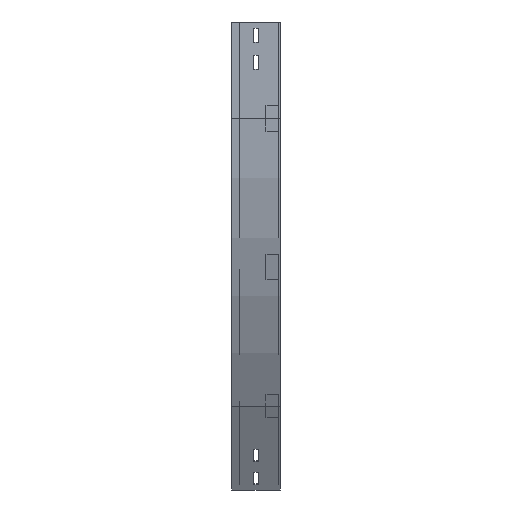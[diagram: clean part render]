
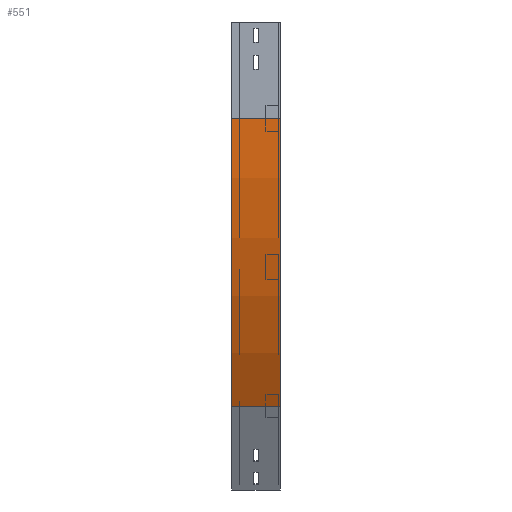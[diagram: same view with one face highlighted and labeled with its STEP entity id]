
A CAD part, left-side view. The second image highlights one B-rep face of the part: STEP entity #551.
In plain terms, the highlighted cylindrical face has radius 900 mm (diameter 1800 mm), a partial arc.
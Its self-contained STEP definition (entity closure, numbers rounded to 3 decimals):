
#178 = DIRECTION ( 'NONE',  ( 0., -1., 0. ) ) ;
#202 = ORIENTED_EDGE ( 'NONE', *, *, #2543, .T. ) ;
#342 = DIRECTION ( 'NONE',  ( 0., -1., 0. ) ) ;
#371 = DIRECTION ( 'NONE',  ( 0., -1., 0. ) ) ;
#429 = CARTESIAN_POINT ( 'NONE',  ( 900., 0., -150. ) ) ;
#498 = CARTESIAN_POINT ( 'NONE',  ( 0., 0., -150. ) ) ;
#551 = ADVANCED_FACE ( 'NONE', ( #703 ), #1306, .T. ) ;
#597 = EDGE_CURVE ( 'NONE', #1271, #2856, #3410, .T. ) ;
#703 = FACE_OUTER_BOUND ( 'NONE', #3224, .T. ) ;
#745 = CARTESIAN_POINT ( 'NONE',  ( 0., 0., -150. ) ) ;
#789 = AXIS2_PLACEMENT_3D ( 'NONE', #429, #178, #2848 ) ;
#843 = AXIS2_PLACEMENT_3D ( 'NONE', #2138, #342, #3302 ) ;
#860 = EDGE_CURVE ( 'NONE', #2917, #2931, #972, .T. ) ;
#919 = DIRECTION ( 'NONE',  ( 0., -1., 0. ) ) ;
#947 = CARTESIAN_POINT ( 'NONE',  ( 0., 75., -150. ) ) ;
#972 = LINE ( 'NONE', #3579, #2355 ) ;
#1271 = VERTEX_POINT ( 'NONE', #947 ) ;
#1306 = CYLINDRICAL_SURFACE ( 'NONE', #789, 900. ) ;
#1327 = CIRCLE ( 'NONE', #2638, 900. ) ;
#1877 = DIRECTION ( 'NONE',  ( -1., 0., 0. ) ) ;
#2019 = EDGE_CURVE ( 'NONE', #2856, #2931, #1327, .T. ) ;
#2134 = CARTESIAN_POINT ( 'NONE',  ( 900., 0., -150. ) ) ;
#2138 = CARTESIAN_POINT ( 'NONE',  ( 900., 75., -150. ) ) ;
#2355 = VECTOR ( 'NONE', #919, 1000. ) ;
#2440 = ORIENTED_EDGE ( 'NONE', *, *, #860, .T. ) ;
#2458 = CARTESIAN_POINT ( 'NONE',  ( 120.577, 0., -600. ) ) ;
#2543 = EDGE_CURVE ( 'NONE', #1271, #2917, #3447, .T. ) ;
#2638 = AXIS2_PLACEMENT_3D ( 'NONE', #2134, #371, #1877 ) ;
#2679 = ORIENTED_EDGE ( 'NONE', *, *, #2019, .F. ) ;
#2848 = DIRECTION ( 'NONE',  ( 0., 0., -1. ) ) ;
#2856 = VERTEX_POINT ( 'NONE', #498 ) ;
#2917 = VERTEX_POINT ( 'NONE', #3810 ) ;
#2931 = VERTEX_POINT ( 'NONE', #2458 ) ;
#3119 = DIRECTION ( 'NONE',  ( 0., -1., 0. ) ) ;
#3153 = VECTOR ( 'NONE', #3119, 1000. ) ;
#3224 = EDGE_LOOP ( 'NONE', ( #2679, #3821, #202, #2440 ) ) ;
#3302 = DIRECTION ( 'NONE',  ( -1., 0., 0. ) ) ;
#3410 = LINE ( 'NONE', #745, #3153 ) ;
#3447 = CIRCLE ( 'NONE', #843, 900. ) ;
#3579 = CARTESIAN_POINT ( 'NONE',  ( 120.577, 0., -600. ) ) ;
#3810 = CARTESIAN_POINT ( 'NONE',  ( 120.577, 75., -600. ) ) ;
#3821 = ORIENTED_EDGE ( 'NONE', *, *, #597, .F. ) ;
